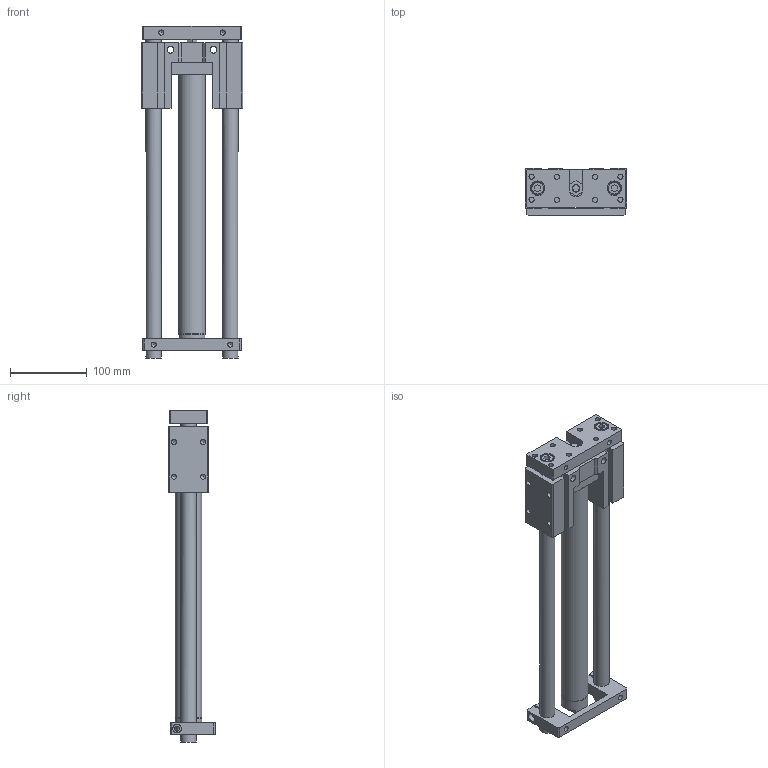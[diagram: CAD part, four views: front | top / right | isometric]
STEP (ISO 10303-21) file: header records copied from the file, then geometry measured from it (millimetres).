
FILE_DESCRIPTION((''),'2;1');
FILE_NAME('I:\3D電子目錄\氣缸\TMB(U)\TMB(U)\TMB(U)32\TMB(U)32x300.stp','2007-10-05T11:19:16',('Administrator'),(''),'Autodesk Inventor 11','Autodesk Inventor 11','');
FILE_SCHEMA(('AUTOMOTIVE_DESIGN { 1 0 10303 214 1 1 1 1 }'));
Length unit declared in the file: millimetre
Products named in the file (1): TMB(U)32
Bounding box: 132 x 61 x 433 mm (x, y, z)
Volume: 1087123.1 mm3; surface area: 178319.1 mm2
Topology: 1 solids, 1 shells, 198 faces, 514 edges, 338 vertices
Faces by surface type: plane 117, bspline 41, cylinder 23, cone 15, torus 2
Full cylindrical faces by diameter (mm): 6.5 x2, 6.647 x6, 10 x1, 11 x1, 16 x2, 18 x2, 20 x2, 35 x2
Entity records: 6000 total; most frequent: CARTESIAN_POINT 1554, DIRECTION 850, ORIENTED_EDGE 842, EDGE_CURVE 421, EDGE_LOOP 320, VERTEX_POINT 313, VECTOR 300, LINE 300
